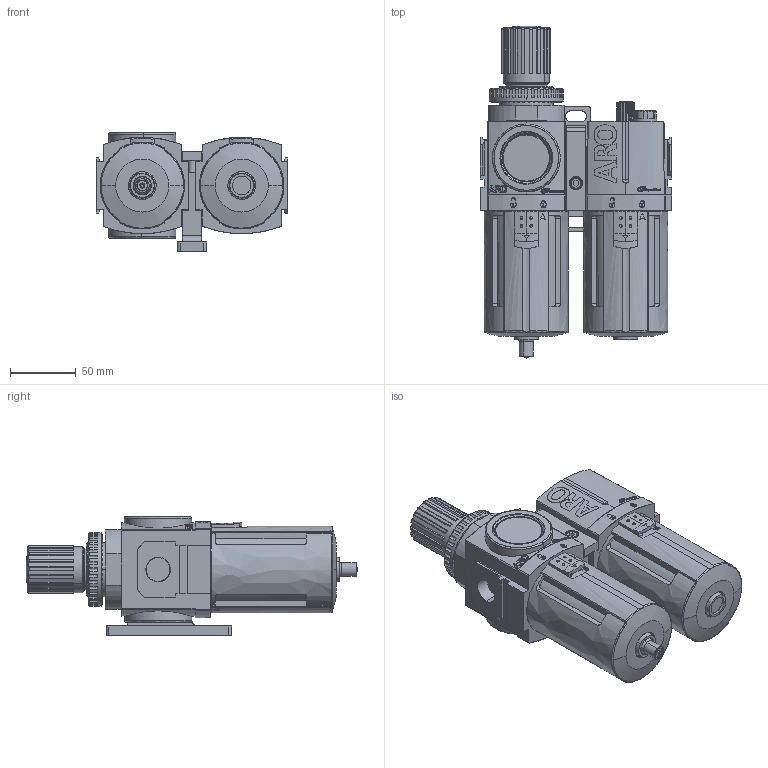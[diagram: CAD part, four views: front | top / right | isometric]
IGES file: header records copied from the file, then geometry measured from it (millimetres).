
Global section: file name: C:\Documents and Settings\szeedyk\Desktop\C383X1-60X_01.igs; native system: NX V4.0; preprocessor: UGS NX IGES V4.0; date: 20090206.134825; units: inch
Bounding box: 145.4 x 251.78 x 89.8 mm (x, y, z)
Surface area: 211214.3 mm2 (no closed solid volume)
Topology: 0 solids, 0 shells, 2815 faces, 17490 edges, 17464 vertices
Faces by surface type: bspline 2815
